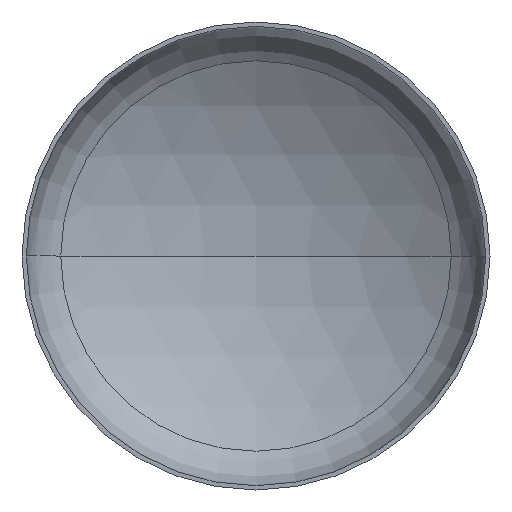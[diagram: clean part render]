
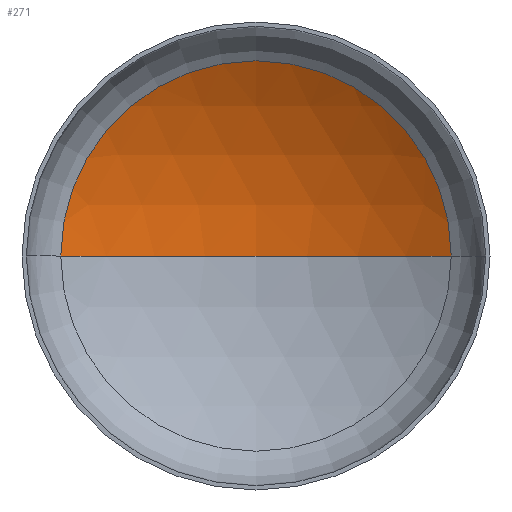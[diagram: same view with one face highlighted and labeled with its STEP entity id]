
A CAD part, front view. The second image highlights one B-rep face of the part: STEP entity #271.
In plain terms, the highlighted spherical face has radius 5200 mm.
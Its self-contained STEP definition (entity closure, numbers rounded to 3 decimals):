
#13 = AXIS2_PLACEMENT_3D ( 'NONE', #73, #123, #74 ) ;
#40 = AXIS2_PLACEMENT_3D ( 'NONE', #262, #191, #186 ) ;
#41 = AXIS2_PLACEMENT_3D ( 'NONE', #132, #152, #153 ) ;
#44 = AXIS2_PLACEMENT_3D ( 'NONE', #272, #270, #269 ) ;
#69 = CIRCLE ( 'NONE', #44, 2711.429 ) ;
#73 = CARTESIAN_POINT ( 'NONE',  ( 0., -3463.839, 0. ) ) ;
#74 = DIRECTION ( 'NONE',  ( -1., 0., 0. ) ) ;
#81 = EDGE_CURVE ( 'NONE', #84, #147, #69, .T. ) ;
#84 = VERTEX_POINT ( 'NONE', #251 ) ;
#85 = EDGE_CURVE ( 'NONE', #227, #84, #379, .T. ) ;
#87 = EDGE_CURVE ( 'NONE', #227, #147, #309, .T. ) ;
#123 = DIRECTION ( 'NONE',  ( 0., 0., -1. ) ) ;
#128 = CARTESIAN_POINT ( 'NONE',  ( 0., 1736.161, 0. ) ) ;
#132 = CARTESIAN_POINT ( 'NONE',  ( 0., -3463.839, 0. ) ) ;
#142 = EDGE_LOOP ( 'NONE', ( #380, #275, #264 ) ) ;
#147 = VERTEX_POINT ( 'NONE', #219 ) ;
#152 = DIRECTION ( 'NONE',  ( 0., 0., -1. ) ) ;
#153 = DIRECTION ( 'NONE',  ( -1., 0., 0. ) ) ;
#186 = DIRECTION ( 'NONE',  ( 1., 0., 0. ) ) ;
#191 = DIRECTION ( 'NONE',  ( 0., 0., 1. ) ) ;
#206 = SPHERICAL_SURFACE ( 'NONE', #13, 5200. ) ;
#219 = CARTESIAN_POINT ( 'NONE',  ( -2711.429, 973.295, 0. ) ) ;
#227 = VERTEX_POINT ( 'NONE', #128 ) ;
#251 = CARTESIAN_POINT ( 'NONE',  ( 2711.429, 973.295, 0. ) ) ;
#262 = CARTESIAN_POINT ( 'NONE',  ( 0., -3463.839, 0. ) ) ;
#264 = ORIENTED_EDGE ( 'NONE', *, *, #81, .T. ) ;
#269 = DIRECTION ( 'NONE',  ( 1., 0., 0. ) ) ;
#270 = DIRECTION ( 'NONE',  ( 0., -1., 0. ) ) ;
#271 = ADVANCED_FACE ( 'NONE', ( #346 ), #206, .F. ) ;
#272 = CARTESIAN_POINT ( 'NONE',  ( 0., 973.295, 0. ) ) ;
#275 = ORIENTED_EDGE ( 'NONE', *, *, #85, .T. ) ;
#309 = CIRCLE ( 'NONE', #40, 5200. ) ;
#346 = FACE_OUTER_BOUND ( 'NONE', #142, .T. ) ;
#379 = CIRCLE ( 'NONE', #41, 5200. ) ;
#380 = ORIENTED_EDGE ( 'NONE', *, *, #87, .F. ) ;
